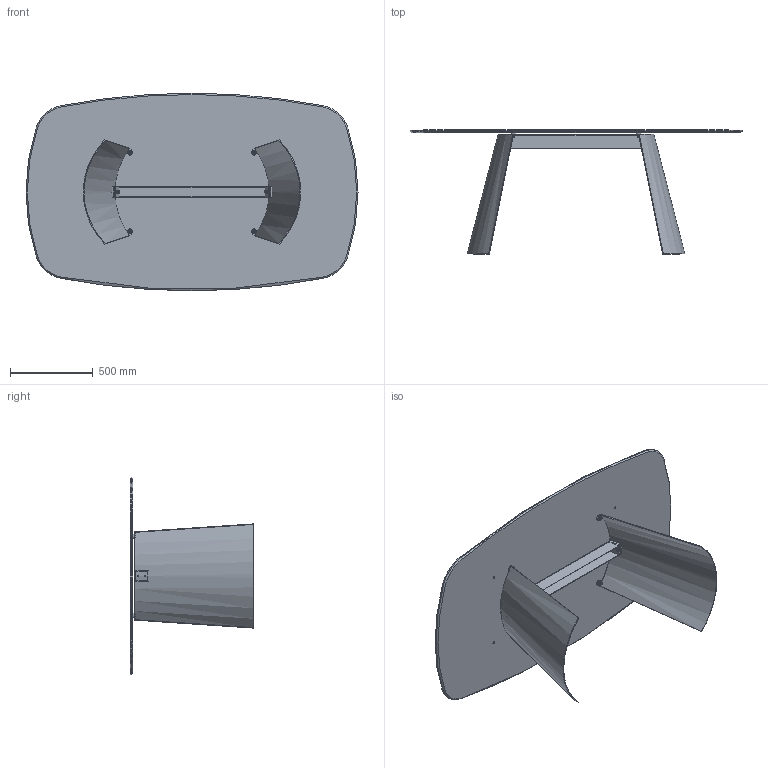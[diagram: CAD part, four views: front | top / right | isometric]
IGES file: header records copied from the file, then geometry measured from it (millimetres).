
Start section: SolidWorks IGES file using analytic representation for surfaces
Global section: file name: Y:\eforma\TECNICO\SOLIDWORKS\E-FORMA\1-TAVOLI\DORIAN\02 parts-rev 01\DN40C.IGS; native system: SolidWorks 2022; preprocessor: SolidWorks 2022; author: eforma.tech; date: 240807.165606; units: millimetre
Bounding box: 2000 x 746 x 1190 mm (x, y, z)
Volume: 39735034.5 mm3; surface area: 11058130 mm2
Topology: 45 solids, 45 shells, 567 faces, 1295 edges, 818 vertices
Faces by surface type: revolution 327, plane 222, bspline 18
